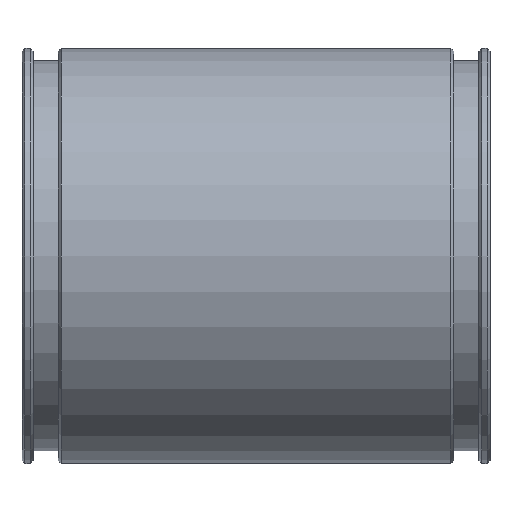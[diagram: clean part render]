
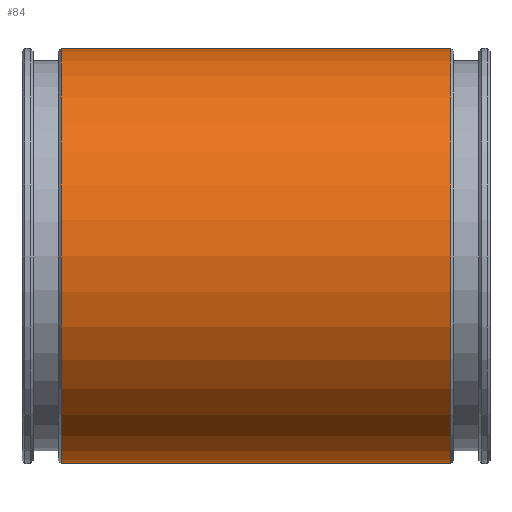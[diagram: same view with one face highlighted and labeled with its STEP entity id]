
A CAD part, front view. The second image highlights one B-rep face of the part: STEP entity #84.
In plain terms, the highlighted cylindrical face has radius 37.25 mm (diameter 74.5 mm), a full revolution.
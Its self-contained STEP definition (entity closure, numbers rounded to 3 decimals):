
#84 = ADVANCED_FACE( '', ( #185, #186 ), #187, .T. );
#185 = FACE_OUTER_BOUND( '', #288, .T. );
#186 = FACE_OUTER_BOUND( '', #289, .T. );
#187 = CYLINDRICAL_SURFACE( '', #290, 37.25 );
#288 = EDGE_LOOP( '', ( #421 ) );
#289 = EDGE_LOOP( '', ( #422 ) );
#290 = AXIS2_PLACEMENT_3D( '', #423, #424, #425 );
#421 = ORIENTED_EDGE( '', *, *, #489, .T. );
#422 = ORIENTED_EDGE( '', *, *, #485, .F. );
#423 = CARTESIAN_POINT( '', ( 42., 0., 0. ) );
#424 = DIRECTION( '', ( -1., 0., 0. ) );
#425 = DIRECTION( '', ( 0., 0., -1. ) );
#485 = EDGE_CURVE( '', #551, #551, #552, .T. );
#489 = EDGE_CURVE( '', #557, #557, #558, .T. );
#551 = VERTEX_POINT( '', #623 );
#552 = CIRCLE( '', #624, 37.25 );
#557 = VERTEX_POINT( '', #629 );
#558 = CIRCLE( '', #630, 37.25 );
#623 = CARTESIAN_POINT( '', ( 77., 0., -37.25 ) );
#624 = AXIS2_PLACEMENT_3D( '', #702, #703, #704 );
#629 = CARTESIAN_POINT( '', ( 7., 0., -37.25 ) );
#630 = AXIS2_PLACEMENT_3D( '', #708, #709, #710 );
#702 = CARTESIAN_POINT( '', ( 77., 0., 0. ) );
#703 = DIRECTION( '', ( 1., 0., 0. ) );
#704 = DIRECTION( '', ( 0., 0., -1. ) );
#708 = CARTESIAN_POINT( '', ( 7., 0., 0. ) );
#709 = DIRECTION( '', ( 1., 0., 0. ) );
#710 = DIRECTION( '', ( 0., 0., -1. ) );
